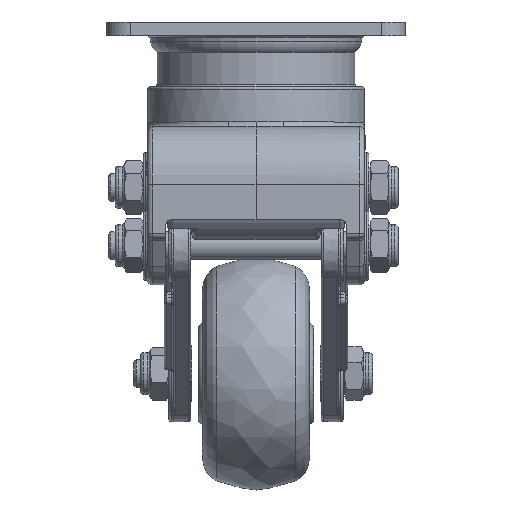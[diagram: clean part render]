
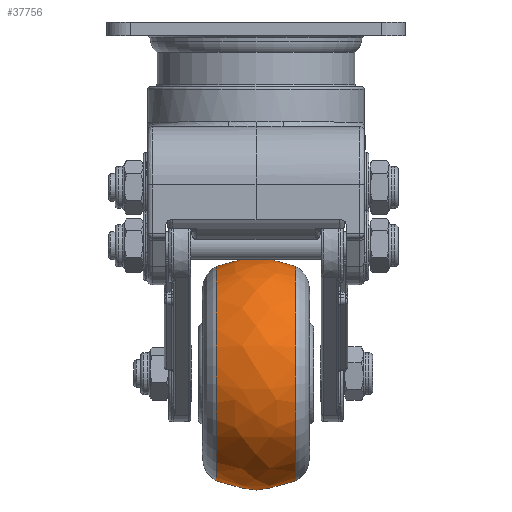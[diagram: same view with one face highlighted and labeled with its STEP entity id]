
A CAD part, left-side view. The second image highlights one B-rep face of the part: STEP entity #37756.
In plain terms, the highlighted free-form (B-spline) face has degree [2, 2] with [3, 9] control points.
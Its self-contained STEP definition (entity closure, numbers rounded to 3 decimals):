
#18=(
BOUNDED_SURFACE()
B_SPLINE_SURFACE(2,2,((#63666,#63667,#63668,#63669,#63670,#63671,#63672,
#63673,#63674),(#63675,#63676,#63677,#63678,#63679,#63680,#63681,#63682,
#63683),(#63684,#63685,#63686,#63687,#63688,#63689,#63690,#63691,#63692)),
 .UNSPECIFIED.,.F.,.T.,.F.)
B_SPLINE_SURFACE_WITH_KNOTS((3,3),(3,2,2,2,3),(-0.44,0.44),
(-3.142,-1.571,0.,1.571,3.142),
 .UNSPECIFIED.)
GEOMETRIC_REPRESENTATION_ITEM()
RATIONAL_B_SPLINE_SURFACE(((1.,0.707,1.,0.707,1.,
0.707,1.,0.707,1.),(0.905,0.64,
0.905,0.64,0.905,0.64,
0.905,0.64,0.905),(1.,0.707,
1.,0.707,1.,0.707,1.,0.707,1.)))
REPRESENTATION_ITEM('')
SURFACE()
);
#5002=FACE_OUTER_BOUND('',#7150,.T.);
#7150=EDGE_LOOP('',(#30148,#30149,#30150,#30151,#30152,#30153));
#13918=CIRCLE('',#40305,23.096);
#13919=CIRCLE('',#40306,23.096);
#13920=CIRCLE('',#40307,20.);
#13921=CIRCLE('',#40308,23.096);
#13922=CIRCLE('',#40309,23.096);
#16582=VERTEX_POINT('',#63693);
#16583=VERTEX_POINT('',#63694);
#16584=VERTEX_POINT('',#63697);
#16585=VERTEX_POINT('',#63699);
#21336=EDGE_CURVE('',#16582,#16583,#13918,.T.);
#21337=EDGE_CURVE('',#16583,#16582,#13919,.T.);
#21338=EDGE_CURVE('',#16583,#16584,#13920,.T.);
#21339=EDGE_CURVE('',#16584,#16585,#13921,.T.);
#21340=EDGE_CURVE('',#16585,#16584,#13922,.T.);
#30148=ORIENTED_EDGE('',*,*,#21336,.F.);
#30149=ORIENTED_EDGE('',*,*,#21337,.F.);
#30150=ORIENTED_EDGE('',*,*,#21338,.T.);
#30151=ORIENTED_EDGE('',*,*,#21339,.T.);
#30152=ORIENTED_EDGE('',*,*,#21340,.T.);
#30153=ORIENTED_EDGE('',*,*,#21338,.F.);
#37756=ADVANCED_FACE('',(#5002),#18,.F.);
#40305=AXIS2_PLACEMENT_3D('',#63695,#46512,#46513);
#40306=AXIS2_PLACEMENT_3D('',#63696,#46514,#46515);
#40307=AXIS2_PLACEMENT_3D('',#63698,#46516,#46517);
#40308=AXIS2_PLACEMENT_3D('',#63700,#46518,#46519);
#40309=AXIS2_PLACEMENT_3D('',#63701,#46520,#46521);
#46512=DIRECTION('center_axis',(0.,-1.,0.));
#46513=DIRECTION('ref_axis',(-0.412,0.,-0.911));
#46514=DIRECTION('center_axis',(0.,-1.,0.));
#46515=DIRECTION('ref_axis',(-0.412,0.,-0.911));
#46516=DIRECTION('center_axis',(-0.911,0.,
0.412));
#46517=DIRECTION('ref_axis',(0.412,0.,0.911));
#46518=DIRECTION('center_axis',(0.,-1.,0.));
#46519=DIRECTION('ref_axis',(-0.412,0.,-0.911));
#46520=DIRECTION('center_axis',(0.,-1.,0.));
#46521=DIRECTION('ref_axis',(-0.412,0.,-0.911));
#63666=CARTESIAN_POINT('Ctrl Pts',(27.012,11.255,-50.26));
#63667=CARTESIAN_POINT('Ctrl Pts',(5.968,11.255,-40.743));
#63668=CARTESIAN_POINT('Ctrl Pts',(-3.549,11.255,-61.787));
#63669=CARTESIAN_POINT('Ctrl Pts',(-13.066,11.255,-82.831));
#63670=CARTESIAN_POINT('Ctrl Pts',(7.978,11.255,-92.349));
#63671=CARTESIAN_POINT('Ctrl Pts',(29.022,11.255,-101.866));
#63672=CARTESIAN_POINT('Ctrl Pts',(38.539,11.255,-80.822));
#63673=CARTESIAN_POINT('Ctrl Pts',(48.057,11.255,-59.778));
#63674=CARTESIAN_POINT('Ctrl Pts',(27.012,11.255,-50.26));
#63675=CARTESIAN_POINT('Ctrl Pts',(28.664,2.739,-46.609));
#63676=CARTESIAN_POINT('Ctrl Pts',(3.968,2.739,-35.44));
#63677=CARTESIAN_POINT('Ctrl Pts',(-7.201,2.739,-60.136));
#63678=CARTESIAN_POINT('Ctrl Pts',(-18.37,2.739,-84.831));
#63679=CARTESIAN_POINT('Ctrl Pts',(6.326,2.739,-96.));
#63680=CARTESIAN_POINT('Ctrl Pts',(31.022,2.739,-107.169));
#63681=CARTESIAN_POINT('Ctrl Pts',(42.191,2.739,-82.473));
#63682=CARTESIAN_POINT('Ctrl Pts',(53.36,2.739,-57.777));
#63683=CARTESIAN_POINT('Ctrl Pts',(28.664,2.739,-46.609));
#63684=CARTESIAN_POINT('Ctrl Pts',(27.012,-5.777,-50.26));
#63685=CARTESIAN_POINT('Ctrl Pts',(5.968,-5.777,-40.743));
#63686=CARTESIAN_POINT('Ctrl Pts',(-3.549,-5.777,
-61.787));
#63687=CARTESIAN_POINT('Ctrl Pts',(-13.066,-5.777,-82.831));
#63688=CARTESIAN_POINT('Ctrl Pts',(7.978,-5.777,-92.349));
#63689=CARTESIAN_POINT('Ctrl Pts',(29.022,-5.777,-101.866));
#63690=CARTESIAN_POINT('Ctrl Pts',(38.539,-5.777,-80.822));
#63691=CARTESIAN_POINT('Ctrl Pts',(48.057,-5.777,-59.778));
#63692=CARTESIAN_POINT('Ctrl Pts',(27.012,-5.777,-50.26));
#63693=CARTESIAN_POINT('',(7.978,-5.777,-92.349));
#63694=CARTESIAN_POINT('',(27.012,-5.777,-50.26));
#63695=CARTESIAN_POINT('Origin',(17.495,-5.777,-71.304));
#63696=CARTESIAN_POINT('Origin',(17.495,-5.777,-71.304));
#63697=CARTESIAN_POINT('',(27.012,11.255,-50.26));
#63698=CARTESIAN_POINT('Origin',(19.555,2.739,-66.749));
#63699=CARTESIAN_POINT('',(7.978,11.255,-92.349));
#63700=CARTESIAN_POINT('Origin',(17.495,11.255,-71.304));
#63701=CARTESIAN_POINT('Origin',(17.495,11.255,-71.304));
